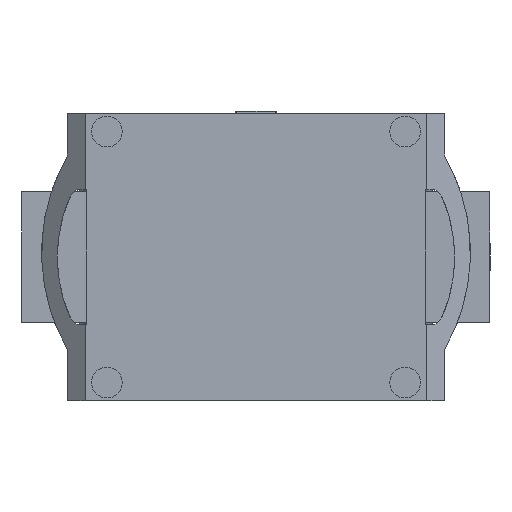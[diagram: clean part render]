
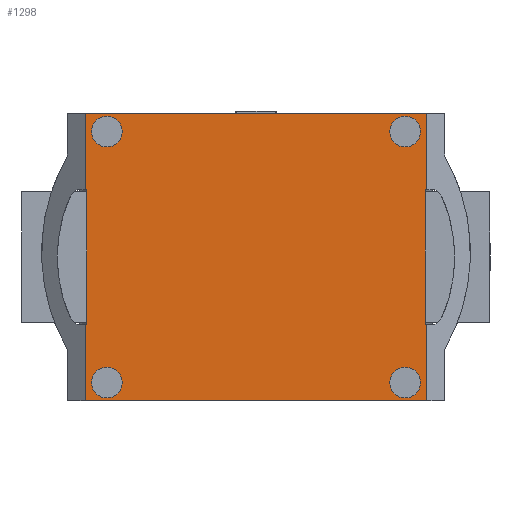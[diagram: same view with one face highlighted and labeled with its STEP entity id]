
A CAD part, front view. The second image highlights one B-rep face of the part: STEP entity #1298.
In plain terms, the highlighted planar face has unit normal (0, -1, 0).
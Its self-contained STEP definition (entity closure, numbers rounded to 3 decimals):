
#42=FACE_BOUND('',#458,.T.);
#43=FACE_BOUND('',#459,.T.);
#44=FACE_BOUND('',#460,.T.);
#45=FACE_BOUND('',#461,.T.);
#106=LINE('',#2168,#227);
#111=LINE('',#2180,#232);
#128=LINE('',#2228,#249);
#132=LINE('',#2235,#253);
#139=LINE('',#2254,#260);
#140=LINE('',#2255,#261);
#141=LINE('',#2257,#262);
#142=LINE('',#2259,#263);
#143=LINE('',#2260,#264);
#144=LINE('',#2261,#265);
#145=LINE('',#2263,#266);
#146=LINE('',#2264,#267);
#227=VECTOR('',#1743,10.);
#232=VECTOR('',#1750,10.);
#249=VECTOR('',#1793,10.);
#253=VECTOR('',#1797,10.);
#260=VECTOR('',#1814,10.);
#261=VECTOR('',#1815,10.);
#262=VECTOR('',#1816,10.);
#263=VECTOR('',#1817,10.);
#264=VECTOR('',#1818,10.);
#265=VECTOR('',#1819,10.);
#266=VECTOR('',#1820,10.);
#267=VECTOR('',#1821,10.);
#378=FACE_OUTER_BOUND('',#457,.T.);
#457=EDGE_LOOP('',(#1027,#1028,#1029,#1030,#1031,#1032,#1033,#1034,#1035,
#1036,#1037,#1038));
#458=EDGE_LOOP('',(#1039));
#459=EDGE_LOOP('',(#1040));
#460=EDGE_LOOP('',(#1041));
#461=EDGE_LOOP('',(#1042));
#525=CIRCLE('',#1518,13.);
#526=CIRCLE('',#1519,13.);
#527=CIRCLE('',#1520,13.);
#528=CIRCLE('',#1521,13.);
#585=VERTEX_POINT('',#2165);
#586=VERTEX_POINT('',#2167);
#591=VERTEX_POINT('',#2177);
#592=VERTEX_POINT('',#2179);
#609=VERTEX_POINT('',#2225);
#610=VERTEX_POINT('',#2227);
#612=VERTEX_POINT('',#2232);
#613=VERTEX_POINT('',#2234);
#620=VERTEX_POINT('',#2253);
#621=VERTEX_POINT('',#2256);
#622=VERTEX_POINT('',#2258);
#623=VERTEX_POINT('',#2262);
#624=VERTEX_POINT('',#2265);
#625=VERTEX_POINT('',#2267);
#626=VERTEX_POINT('',#2269);
#627=VERTEX_POINT('',#2271);
#728=EDGE_CURVE('',#585,#586,#106,.T.);
#734=EDGE_CURVE('',#592,#591,#111,.T.);
#758=EDGE_CURVE('',#609,#610,#128,.T.);
#762=EDGE_CURVE('',#613,#612,#132,.T.);
#772=EDGE_CURVE('',#613,#620,#139,.T.);
#773=EDGE_CURVE('',#586,#612,#140,.T.);
#774=EDGE_CURVE('',#585,#621,#141,.T.);
#775=EDGE_CURVE('',#622,#621,#142,.T.);
#776=EDGE_CURVE('',#592,#622,#143,.T.);
#777=EDGE_CURVE('',#591,#610,#144,.T.);
#778=EDGE_CURVE('',#609,#623,#145,.T.);
#779=EDGE_CURVE('',#623,#620,#146,.T.);
#780=EDGE_CURVE('',#624,#624,#525,.T.);
#781=EDGE_CURVE('',#625,#625,#526,.T.);
#782=EDGE_CURVE('',#626,#626,#527,.T.);
#783=EDGE_CURVE('',#627,#627,#528,.T.);
#1027=ORIENTED_EDGE('',*,*,#772,.F.);
#1028=ORIENTED_EDGE('',*,*,#762,.T.);
#1029=ORIENTED_EDGE('',*,*,#773,.F.);
#1030=ORIENTED_EDGE('',*,*,#728,.F.);
#1031=ORIENTED_EDGE('',*,*,#774,.T.);
#1032=ORIENTED_EDGE('',*,*,#775,.F.);
#1033=ORIENTED_EDGE('',*,*,#776,.F.);
#1034=ORIENTED_EDGE('',*,*,#734,.T.);
#1035=ORIENTED_EDGE('',*,*,#777,.T.);
#1036=ORIENTED_EDGE('',*,*,#758,.F.);
#1037=ORIENTED_EDGE('',*,*,#778,.T.);
#1038=ORIENTED_EDGE('',*,*,#779,.T.);
#1039=ORIENTED_EDGE('',*,*,#780,.F.);
#1040=ORIENTED_EDGE('',*,*,#781,.T.);
#1041=ORIENTED_EDGE('',*,*,#782,.F.);
#1042=ORIENTED_EDGE('',*,*,#783,.T.);
#1236=PLANE('',#1517);
#1298=ADVANCED_FACE('',(#378,#42,#43,#44,#45),#1236,.T.);
#1517=AXIS2_PLACEMENT_3D('',#2252,#1812,#1813);
#1518=AXIS2_PLACEMENT_3D('',#2266,#1822,#1823);
#1519=AXIS2_PLACEMENT_3D('',#2268,#1824,#1825);
#1520=AXIS2_PLACEMENT_3D('',#2270,#1826,#1827);
#1521=AXIS2_PLACEMENT_3D('',#2272,#1828,#1829);
#1743=DIRECTION('',(0.,0.,1.));
#1750=DIRECTION('',(0.,0.,-1.));
#1793=DIRECTION('',(0.,0.,-1.));
#1797=DIRECTION('',(0.,0.,1.));
#1812=DIRECTION('center_axis',(0.,-1.,0.));
#1813=DIRECTION('ref_axis',(1.,0.,0.));
#1814=DIRECTION('',(-1.,0.,0.001));
#1815=DIRECTION('',(1.,0.,0.));
#1816=DIRECTION('',(1.,0.,0.001));
#1817=DIRECTION('',(0.001,0.,1.));
#1818=DIRECTION('',(1.,0.,-0.001));
#1819=DIRECTION('',(1.,0.,0.));
#1820=DIRECTION('',(-1.,0.,-0.001));
#1821=DIRECTION('',(-0.001,0.,1.));
#1822=DIRECTION('center_axis',(0.,-1.,0.));
#1823=DIRECTION('ref_axis',(1.,0.,0.));
#1824=DIRECTION('center_axis',(0.,1.,0.));
#1825=DIRECTION('ref_axis',(-1.,0.,0.));
#1826=DIRECTION('center_axis',(0.,-1.,0.));
#1827=DIRECTION('ref_axis',(-1.,0.,0.));
#1828=DIRECTION('center_axis',(0.,1.,0.));
#1829=DIRECTION('ref_axis',(1.,0.,0.));
#2165=CARTESIAN_POINT('',(-144.207,0.,56.998));
#2167=CARTESIAN_POINT('',(-144.207,0.,121.2));
#2168=CARTESIAN_POINT('',(-144.207,0.,0.));
#2177=CARTESIAN_POINT('',(-144.207,0.,-121.2));
#2179=CARTESIAN_POINT('',(-144.207,0.,-56.998));
#2180=CARTESIAN_POINT('',(-144.207,0.,0.));
#2225=CARTESIAN_POINT('',(144.207,0.,-56.998));
#2227=CARTESIAN_POINT('',(144.207,0.,-121.2));
#2228=CARTESIAN_POINT('',(144.207,0.,0.));
#2232=CARTESIAN_POINT('',(144.207,0.,121.2));
#2234=CARTESIAN_POINT('',(144.207,0.,56.998));
#2235=CARTESIAN_POINT('',(144.207,0.,0.));
#2252=CARTESIAN_POINT('Origin',(-144.207,0.,0.));
#2253=CARTESIAN_POINT('',(142.789,0.,56.999));
#2254=CARTESIAN_POINT('',(146.583,0.,56.996));
#2255=CARTESIAN_POINT('',(-190.,0.,121.2));
#2256=CARTESIAN_POINT('',(-142.789,0.,56.999));
#2257=CARTESIAN_POINT('',(-146.583,0.,56.996));
#2258=CARTESIAN_POINT('',(-142.861,0.,-56.999));
#2259=CARTESIAN_POINT('',(-142.843,0.,-28.5));
#2260=CARTESIAN_POINT('',(-146.583,0.,-56.996));
#2261=CARTESIAN_POINT('',(-190.,0.,-121.2));
#2262=CARTESIAN_POINT('',(142.861,0.,-56.999));
#2263=CARTESIAN_POINT('',(146.583,0.,-56.996));
#2264=CARTESIAN_POINT('',(142.843,0.,-28.5));
#2265=CARTESIAN_POINT('',(-139.,0.,-106.));
#2266=CARTESIAN_POINT('Origin',(-126.,0.,-106.));
#2267=CARTESIAN_POINT('',(139.,0.,-106.));
#2268=CARTESIAN_POINT('Origin',(126.,0.,-106.));
#2269=CARTESIAN_POINT('',(139.,0.,106.));
#2270=CARTESIAN_POINT('Origin',(126.,0.,106.));
#2271=CARTESIAN_POINT('',(-139.,0.,106.));
#2272=CARTESIAN_POINT('Origin',(-126.,0.,106.));
